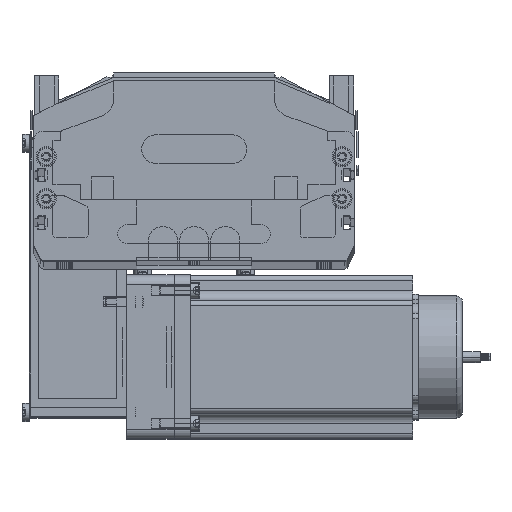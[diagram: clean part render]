
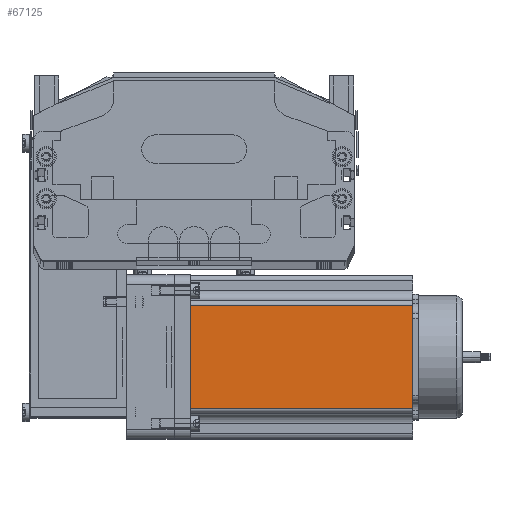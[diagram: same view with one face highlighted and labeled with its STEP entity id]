
A CAD part, top view. The second image highlights one B-rep face of the part: STEP entity #67125.
In plain terms, the highlighted planar face has unit normal (0, 0, 1) as drawn and (0, -1, 0) by its records, which use the part's own axes.
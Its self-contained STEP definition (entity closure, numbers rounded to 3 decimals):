
#5290 = CARTESIAN_POINT ( 'NONE',  ( 69.74, 0., 116.5 ) ) ;
#5292 = CARTESIAN_POINT ( 'NONE',  ( 69.74, 0., 0. ) ) ;
#49762 = CARTESIAN_POINT ( 'NONE',  ( 0., 0., 116.5 ) ) ;
#49764 = AXIS2_PLACEMENT_3D ( 'NONE', #49762, #49825, #49824 ) ;
#49765 = PLANE ( 'NONE',  #49764 ) ;
#49769 = FACE_OUTER_BOUND ( 'NONE', #67122, .T. ) ;
#49824 = DIRECTION ( 'NONE',  ( 0., 0., 1. ) ) ;
#49825 = DIRECTION ( 'NONE',  ( 0., 1., 0. ) ) ;
#49837 = LINE ( 'NONE', #49904, #49952 ) ;
#49903 = DIRECTION ( 'NONE',  ( 1., 0., 0. ) ) ;
#49904 = CARTESIAN_POINT ( 'NONE',  ( 0., 0., 116.5 ) ) ;
#49940 = DIRECTION ( 'NONE',  ( 1., 0., 0. ) ) ;
#49941 = VECTOR ( 'NONE', #49940, 1000. ) ;
#49942 = CARTESIAN_POINT ( 'NONE',  ( 0., 0., 0. ) ) ;
#49943 = LINE ( 'NONE', #49942, #49941 ) ;
#49944 = DIRECTION ( 'NONE',  ( 0., 0., 1. ) ) ;
#49945 = VECTOR ( 'NONE', #49944, 1000. ) ;
#49948 = CARTESIAN_POINT ( 'NONE',  ( 69.74, 0., 116.5 ) ) ;
#49950 = CARTESIAN_POINT ( 'NONE',  ( 16.16, 0., 116.5 ) ) ;
#49952 = VECTOR ( 'NONE', #49903, 1000. ) ;
#49953 = LINE ( 'NONE', #49948, #49945 ) ;
#49983 = DIRECTION ( 'NONE',  ( 0., 0., -1. ) ) ;
#49993 = VECTOR ( 'NONE', #49983, 1000. ) ;
#49994 = CARTESIAN_POINT ( 'NONE',  ( 16.16, 0., 116.5 ) ) ;
#49995 = LINE ( 'NONE', #49994, #49993 ) ;
#50002 = CARTESIAN_POINT ( 'NONE',  ( 16.16, 0., 0. ) ) ;
#67122 = EDGE_LOOP ( 'NONE', ( #67392, #67210, #67227, #67848 ) ) ;
#67125 = ADVANCED_FACE ( 'NONE', ( #49769 ), #49765, .F. ) ;
#67210 = ORIENTED_EDGE ( 'NONE', *, *, #67212, .T. ) ;
#67211 = EDGE_CURVE ( 'NONE', #67225, #67573, #49837, .T. ) ;
#67212 = EDGE_CURVE ( 'NONE', #67572, #67573, #49953, .T. ) ;
#67213 = EDGE_CURVE ( 'NONE', #67226, #67572, #49943, .T. ) ;
#67225 = VERTEX_POINT ( 'NONE', #49950 ) ;
#67226 = VERTEX_POINT ( 'NONE', #50002 ) ;
#67227 = ORIENTED_EDGE ( 'NONE', *, *, #67211, .F. ) ;
#67228 = EDGE_CURVE ( 'NONE', #67225, #67226, #49995, .T. ) ;
#67392 = ORIENTED_EDGE ( 'NONE', *, *, #67213, .T. ) ;
#67572 = VERTEX_POINT ( 'NONE', #5292 ) ;
#67573 = VERTEX_POINT ( 'NONE', #5290 ) ;
#67848 = ORIENTED_EDGE ( 'NONE', *, *, #67228, .T. ) ;
